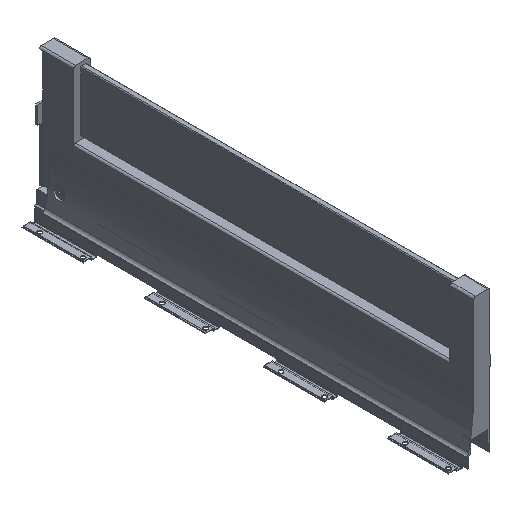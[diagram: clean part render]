
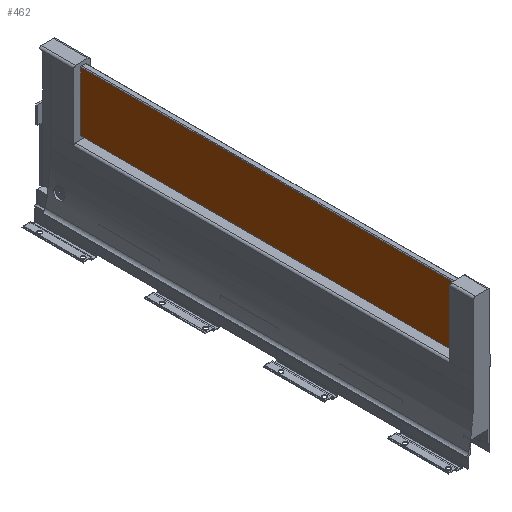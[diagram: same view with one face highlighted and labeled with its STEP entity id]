
A CAD part, isometric view. The second image highlights one B-rep face of the part: STEP entity #462.
In plain terms, the highlighted planar face has unit normal (-1, 0, 0).
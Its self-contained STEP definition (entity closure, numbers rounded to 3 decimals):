
#271 = FACE_OUTER_BOUND ( 'NONE', #1568, .T. ) ;
#462 = ADVANCED_FACE ( 'NONE', ( #271 ), #3189, .T. ) ;
#868 = ORIENTED_EDGE ( 'NONE', *, *, #2058, .F. ) ;
#869 = ORIENTED_EDGE ( 'NONE', *, *, #6091, .T. ) ;
#870 = ORIENTED_EDGE ( 'NONE', *, *, #6347, .T. ) ;
#1023 = ORIENTED_EDGE ( 'NONE', *, *, #6379, .F. ) ;
#1568 = EDGE_LOOP ( 'NONE', ( #870, #869, #868, #1023 ) ) ;
#1844 = VECTOR ( 'NONE', #4009, 1000. ) ;
#2058 = EDGE_CURVE ( 'NONE', #2435, #2425, #3318, .T. ) ;
#2360 = VERTEX_POINT ( 'NONE', #4377 ) ;
#2425 = VERTEX_POINT ( 'NONE', #4442 ) ;
#2435 = VERTEX_POINT ( 'NONE', #4452 ) ;
#2495 = VERTEX_POINT ( 'NONE', #4512 ) ;
#3189 = PLANE ( 'NONE',  #3435 ) ;
#3192 = CARTESIAN_POINT ( 'NONE',  ( -9.6, 745., 174.798 ) ) ;
#3204 = DIRECTION ( 'NONE',  ( -1., 0., 0. ) ) ;
#3205 = DIRECTION ( 'NONE',  ( 0., 0., -1. ) ) ;
#3318 = LINE ( 'NONE', #3998, #1844 ) ;
#3435 = AXIS2_PLACEMENT_3D ( 'NONE', #3192, #3204, #3205 ) ;
#3998 = CARTESIAN_POINT ( 'NONE',  ( -9.6, 35.3, 174.798 ) ) ;
#4009 = DIRECTION ( 'NONE',  ( 0., 0., -1. ) ) ;
#4377 = CARTESIAN_POINT ( 'NONE',  ( -9.6, 589.3, 87.298 ) ) ;
#4442 = CARTESIAN_POINT ( 'NONE',  ( -9.6, 35.3, 87.298 ) ) ;
#4452 = CARTESIAN_POINT ( 'NONE',  ( -9.6, 35.3, 174.798 ) ) ;
#4512 = CARTESIAN_POINT ( 'NONE',  ( -9.6, 589.3, 174.798 ) ) ;
#4765 = CARTESIAN_POINT ( 'NONE',  ( -9.6, 745., 87.298 ) ) ;
#4766 = DIRECTION ( 'NONE',  ( 0., -1., 0. ) ) ;
#5164 = LINE ( 'NONE', #4765, #5165 ) ;
#5165 = VECTOR ( 'NONE', #4766, 1000. ) ;
#5644 = LINE ( 'NONE', #6802, #5645 ) ;
#5645 = VECTOR ( 'NONE', #6803, 1000. ) ;
#5703 = LINE ( 'NONE', #6870, #5704 ) ;
#5704 = VECTOR ( 'NONE', #6871, 1000. ) ;
#6091 = EDGE_CURVE ( 'NONE', #2360, #2425, #5164, .T. ) ;
#6347 = EDGE_CURVE ( 'NONE', #2495, #2360, #5644, .T. ) ;
#6379 = EDGE_CURVE ( 'NONE', #2495, #2435, #5703, .T. ) ;
#6802 = CARTESIAN_POINT ( 'NONE',  ( -9.6, 589.3, 174.798 ) ) ;
#6803 = DIRECTION ( 'NONE',  ( 0., 0., -1. ) ) ;
#6870 = CARTESIAN_POINT ( 'NONE',  ( -9.6, 745., 174.798 ) ) ;
#6871 = DIRECTION ( 'NONE',  ( 0., -1., 0. ) ) ;
